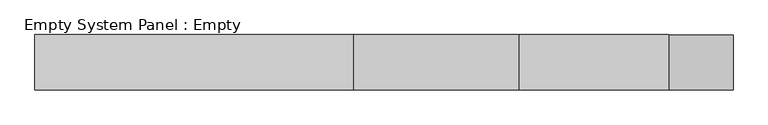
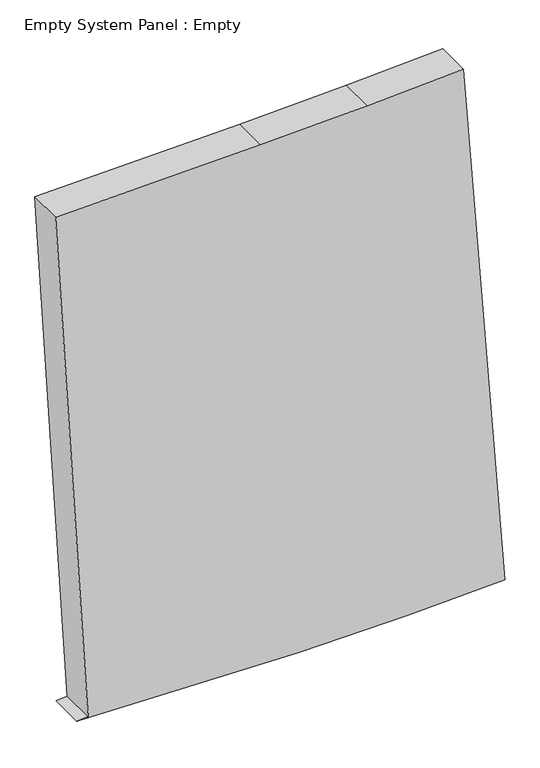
"""IFC4 building model written with IfcOpenShell, lengths in millimetres: plate geometry, Empty System Panel : Empty."""

from ifc_helpers import new_model, si_unit, frame, origin, place, context, project, spatial, polyline, outline, extrude, source, transform, mapped, element, save


def empty_system_panel_empty_a5783eea(model_context):
    return source(origin(), model_context, "Body", "SweptSolid", [
        extrude(outline(polyline([(0.0, 55.4531262), (3.6852477, 364.0390877), (13.1154377, 640.2067046), (1590.9499583, 521.9659427), (1577.0464297, 247.9926971), (1565.0983991, -55.7651928), (1552.6027636, -640.2067046), (16.1100219, -547.5994781), (14.1998578, -579.2919657), (0.0, 55.4531262)])), frame((0.0, -50.8, 0.0), z_axis=(0.0, 1.0, 0.0), x_axis=(0.0, 0.0, 1.0)), (0.0, 0.0, 1.0), 101.6),
    ])


if __name__ == "__main__":
    model = new_model("IFC4")
    model_context = context("Model", 3, world=origin())
    ifc_project = project(units=[si_unit("LENGTHUNIT", "METRE", prefix="MILLI")], contexts=[model_context])
    site = spatial("IfcSite", under=ifc_project)
    building = spatial("IfcBuilding", under=site)
    placement = place(None, origin())
    empty_system_panel_empty_shape = empty_system_panel_empty_a5783eea(model_context)
    element("IfcPlate", 1, ObjectType="Empty System Panel : Empty", at=placement, inside=building, context=model_context, shape_type="MappedRepresentation", body=[
        mapped(empty_system_panel_empty_shape, transform((0.0, 0.0, 0.0), x_axis=(1.0, 0.0, 0.0), y_axis=(0.0, 1.0, 0.0), z_axis=(0.0, 0.0, 1.0))),
    ])
    save(model, "model.ifc")
